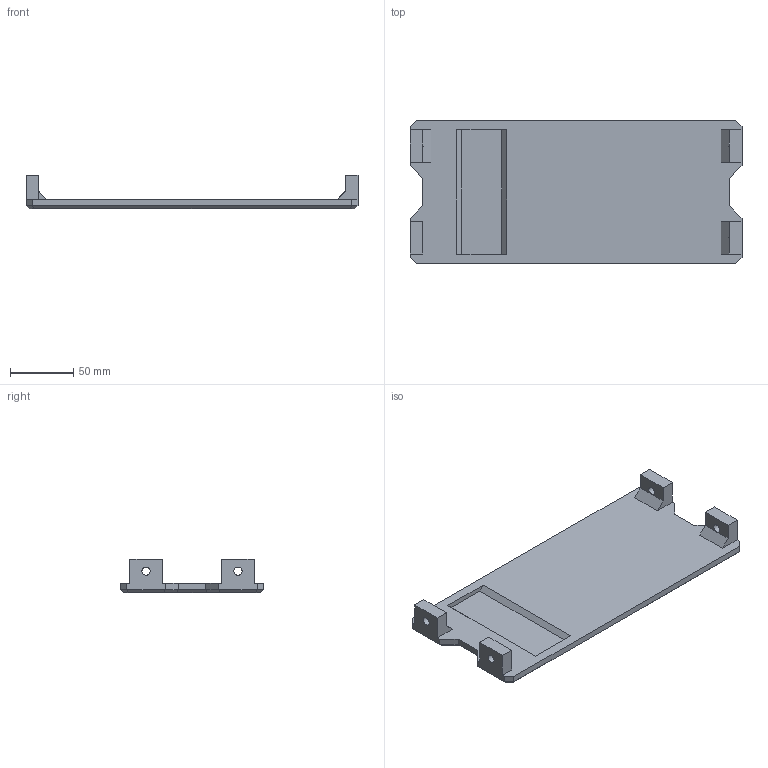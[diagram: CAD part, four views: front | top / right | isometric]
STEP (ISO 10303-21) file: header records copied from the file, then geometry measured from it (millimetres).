
FILE_DESCRIPTION(/* description */ ('STEP AP242 Edition 2','CAx-IF Rec.Pracs.---Representation and Presentation of Product Manufacturing Information (PMI)---4.0---2014-10-13','CAx-IF Rec.Pracs.---3D Tessellated Geometry---0.4---2014-09-14','2;1','CAx-IF Rec.Pracs.---User Defined Attributes---1.5---2016-08-15'),/* implementation_level */ '2;1');
FILE_NAME(/* name */ 'electronics box - Battery Box Lid',/* time_stamp */ '2026-05-29T17:27:43Z',/* author */ (''),/* organization */ (''),/* preprocessor_version */ 'ST-DEVELOPER v20',/* originating_system */ 'ONSHAPE BY PTC INC, 1.215',/* authorisation */ ' ');
FILE_SCHEMA (('AP242_MANAGED_MODEL_BASED_3D_ENGINEERING_MIM_LF { 1 0 10303 442 3 1 4 }'));
Length unit declared in the file: metre
Products named in the file (1): Battery Box Lid
Bounding box: 261.62 x 113.03 x 26.67 mm (x, y, z)
Volume: 224197.7 mm3; surface area: 68766.8 mm2
Topology: 1 solids, 1 shells, 62 faces, 171 edges, 109 vertices
Faces by surface type: plane 58, cylinder 4
Full cylindrical faces by diameter (mm): 6.528 x4
Entity records: 1908 total; most frequent: CARTESIAN_POINT 331, ORIENTED_EDGE 326, DIRECTION 300, EDGE_CURVE 163, LINE 152, VECTOR 152, VERTEX_POINT 105, AXIS2_PLACEMENT_3D 74
